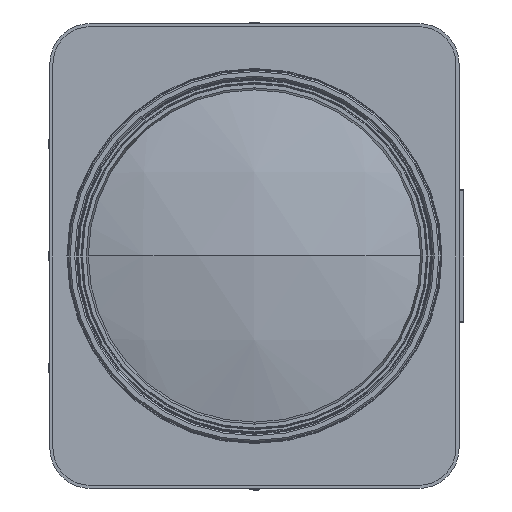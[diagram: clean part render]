
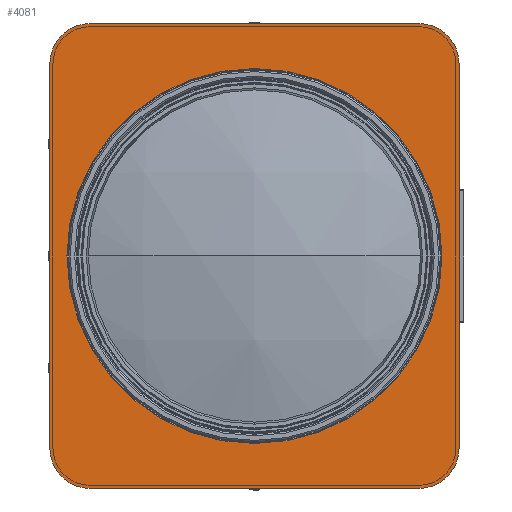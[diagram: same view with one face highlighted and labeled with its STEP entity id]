
A CAD part, left-side view. The second image highlights one B-rep face of the part: STEP entity #4081.
In plain terms, the highlighted planar face has unit normal (-1, 0, 0).
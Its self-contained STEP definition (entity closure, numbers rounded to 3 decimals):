
#300 = CARTESIAN_POINT ( 'NONE',  ( -375.5, 0., 60.5 ) ) ;
#377 = VECTOR ( 'NONE', #7109, 1000. ) ;
#518 = CIRCLE ( 'NONE', #7376, 13. ) ;
#585 = LINE ( 'NONE', #3622, #377 ) ;
#609 = VERTEX_POINT ( 'NONE', #1593 ) ;
#612 = VECTOR ( 'NONE', #6115, 1000. ) ;
#640 = CARTESIAN_POINT ( 'NONE',  ( -375.5, -66., 62. ) ) ;
#744 = CIRCLE ( 'NONE', #1472, 13. ) ;
#882 = VERTEX_POINT ( 'NONE', #951 ) ;
#951 = CARTESIAN_POINT ( 'NONE',  ( -375.5, 53., -75. ) ) ;
#1071 = CIRCLE ( 'NONE', #3475, 60.5 ) ;
#1091 = EDGE_CURVE ( 'NONE', #6820, #609, #2829, .T. ) ;
#1167 = CARTESIAN_POINT ( 'NONE',  ( -375.5, -53., -62. ) ) ;
#1181 = VERTEX_POINT ( 'NONE', #2979 ) ;
#1192 = ORIENTED_EDGE ( 'NONE', *, *, #8224, .F. ) ;
#1249 = CARTESIAN_POINT ( 'NONE',  ( -375.5, -53., -75. ) ) ;
#1472 = AXIS2_PLACEMENT_3D ( 'NONE', #3548, #8409, #4249 ) ;
#1593 = CARTESIAN_POINT ( 'NONE',  ( -375.5, 53., 75. ) ) ;
#1598 = VERTEX_POINT ( 'NONE', #7743 ) ;
#1646 = DIRECTION ( 'NONE',  ( 1., 0., 0. ) ) ;
#1806 = DIRECTION ( 'NONE',  ( 0., -1., 0. ) ) ;
#2042 = CARTESIAN_POINT ( 'NONE',  ( -375.5, 53., 62. ) ) ;
#2336 = DIRECTION ( 'NONE',  ( -1., 0., 0. ) ) ;
#2465 = VECTOR ( 'NONE', #5888, 1000. ) ;
#2480 = LINE ( 'NONE', #1249, #612 ) ;
#2538 = CARTESIAN_POINT ( 'NONE',  ( -375.5, 0., 0. ) ) ;
#2590 = EDGE_CURVE ( 'NONE', #1598, #3313, #6233, .T. ) ;
#2598 = DIRECTION ( 'NONE',  ( 0., 0., -1. ) ) ;
#2679 = EDGE_CURVE ( 'NONE', #882, #1181, #7442, .T. ) ;
#2740 = DIRECTION ( 'NONE',  ( 0., 0., 1. ) ) ;
#2769 = AXIS2_PLACEMENT_3D ( 'NONE', #1167, #6762, #2598 ) ;
#2794 = VERTEX_POINT ( 'NONE', #640 ) ;
#2829 = CIRCLE ( 'NONE', #8766, 13. ) ;
#2930 = EDGE_LOOP ( 'NONE', ( #1192, #6875 ) ) ;
#2974 = CARTESIAN_POINT ( 'NONE',  ( -375.5, 66., 62. ) ) ;
#2979 = CARTESIAN_POINT ( 'NONE',  ( -375.5, 66., -62. ) ) ;
#3133 = ORIENTED_EDGE ( 'NONE', *, *, #7494, .F. ) ;
#3238 = DIRECTION ( 'NONE',  ( 0., 0., 1. ) ) ;
#3313 = VERTEX_POINT ( 'NONE', #300 ) ;
#3475 = AXIS2_PLACEMENT_3D ( 'NONE', #6496, #2336, #7209 ) ;
#3548 = CARTESIAN_POINT ( 'NONE',  ( -375.5, -53., 62. ) ) ;
#3558 = VECTOR ( 'NONE', #1806, 1000. ) ;
#3622 = CARTESIAN_POINT ( 'NONE',  ( -375.5, -66., 62. ) ) ;
#3641 = ORIENTED_EDGE ( 'NONE', *, *, #7993, .F. ) ;
#3664 = FACE_OUTER_BOUND ( 'NONE', #4785, .T. ) ;
#3921 = EDGE_CURVE ( 'NONE', #1181, #6820, #8222, .T. ) ;
#4028 = DIRECTION ( 'NONE',  ( 1., 0., 0. ) ) ;
#4081 = ADVANCED_FACE ( 'NONE', ( #5067, #3664 ), #6052, .F. ) ;
#4249 = DIRECTION ( 'NONE',  ( 0., 0., 1. ) ) ;
#4582 = ORIENTED_EDGE ( 'NONE', *, *, #6003, .F. ) ;
#4785 = EDGE_LOOP ( 'NONE', ( #3641, #3133, #6854, #6770, #8341, #6633, #8163, #4582 ) ) ;
#4852 = AXIS2_PLACEMENT_3D ( 'NONE', #2538, #7410, #3238 ) ;
#4999 = VERTEX_POINT ( 'NONE', #7328 ) ;
#5067 = FACE_BOUND ( 'NONE', #2930, .T. ) ;
#5151 = CARTESIAN_POINT ( 'NONE',  ( -375.5, 66., 62. ) ) ;
#5294 = CARTESIAN_POINT ( 'NONE',  ( -375.5, -66., -62. ) ) ;
#5333 = EDGE_CURVE ( 'NONE', #7940, #2794, #744, .T. ) ;
#5793 = CARTESIAN_POINT ( 'NONE',  ( -375.5, -53., -62. ) ) ;
#5866 = VERTEX_POINT ( 'NONE', #5294 ) ;
#5888 = DIRECTION ( 'NONE',  ( 0., 0., 1. ) ) ;
#6003 = EDGE_CURVE ( 'NONE', #4999, #882, #2480, .T. ) ;
#6052 = PLANE ( 'NONE',  #2769 ) ;
#6115 = DIRECTION ( 'NONE',  ( 0., 1., 0. ) ) ;
#6233 = CIRCLE ( 'NONE', #4852, 60.5 ) ;
#6374 = EDGE_CURVE ( 'NONE', #609, #7940, #7259, .T. ) ;
#6482 = DIRECTION ( 'NONE',  ( 0., 0., -1. ) ) ;
#6496 = CARTESIAN_POINT ( 'NONE',  ( -375.5, 0., 0. ) ) ;
#6633 = ORIENTED_EDGE ( 'NONE', *, *, #3921, .F. ) ;
#6762 = DIRECTION ( 'NONE',  ( 1., 0., 0. ) ) ;
#6770 = ORIENTED_EDGE ( 'NONE', *, *, #6374, .F. ) ;
#6820 = VERTEX_POINT ( 'NONE', #2974 ) ;
#6854 = ORIENTED_EDGE ( 'NONE', *, *, #5333, .F. ) ;
#6875 = ORIENTED_EDGE ( 'NONE', *, *, #2590, .F. ) ;
#6903 = DIRECTION ( 'NONE',  ( 1., 0., 0. ) ) ;
#7109 = DIRECTION ( 'NONE',  ( 0., 0., -1. ) ) ;
#7209 = DIRECTION ( 'NONE',  ( 0., 0., 1. ) ) ;
#7259 = LINE ( 'NONE', #8743, #3558 ) ;
#7328 = CARTESIAN_POINT ( 'NONE',  ( -375.5, -53., -75. ) ) ;
#7376 = AXIS2_PLACEMENT_3D ( 'NONE', #5793, #1646, #6482 ) ;
#7410 = DIRECTION ( 'NONE',  ( -1., 0., 0. ) ) ;
#7442 = CIRCLE ( 'NONE', #8607, 13. ) ;
#7494 = EDGE_CURVE ( 'NONE', #2794, #5866, #585, .T. ) ;
#7743 = CARTESIAN_POINT ( 'NONE',  ( -375.5, 0., -60.5 ) ) ;
#7940 = VERTEX_POINT ( 'NONE', #8473 ) ;
#7993 = EDGE_CURVE ( 'NONE', #5866, #4999, #518, .T. ) ;
#8163 = ORIENTED_EDGE ( 'NONE', *, *, #2679, .F. ) ;
#8193 = CARTESIAN_POINT ( 'NONE',  ( -375.5, 53., -62. ) ) ;
#8222 = LINE ( 'NONE', #5151, #2465 ) ;
#8224 = EDGE_CURVE ( 'NONE', #3313, #1598, #1071, .T. ) ;
#8341 = ORIENTED_EDGE ( 'NONE', *, *, #1091, .F. ) ;
#8409 = DIRECTION ( 'NONE',  ( 1., 0., 0. ) ) ;
#8473 = CARTESIAN_POINT ( 'NONE',  ( -375.5, -53., 75. ) ) ;
#8607 = AXIS2_PLACEMENT_3D ( 'NONE', #8193, #4028, #8895 ) ;
#8743 = CARTESIAN_POINT ( 'NONE',  ( -375.5, -53., 75. ) ) ;
#8766 = AXIS2_PLACEMENT_3D ( 'NONE', #2042, #6903, #2740 ) ;
#8895 = DIRECTION ( 'NONE',  ( 0., 0., 1. ) ) ;
